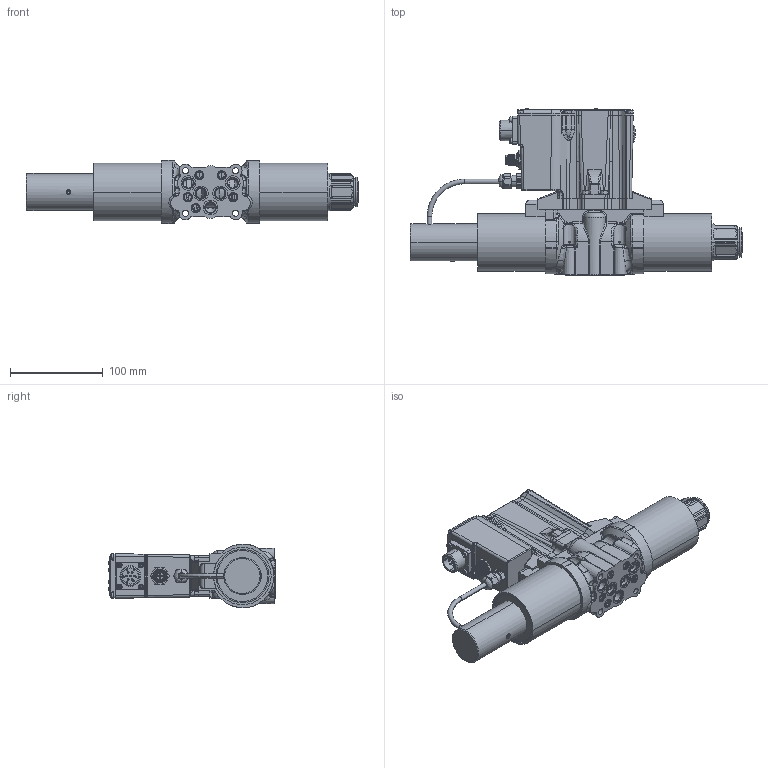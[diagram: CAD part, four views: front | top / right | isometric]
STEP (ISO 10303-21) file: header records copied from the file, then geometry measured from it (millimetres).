
FILE_DESCRIPTION((''),'2;1');
FILE_NAME('45860700','2025-05-12T10:22:33',('l.soukupova'),(''),'CREO PARAMETRIC BY PTC INC, 2023254','CREO PARAMETRIC BY PTC INC, 2023254','');
FILE_SCHEMA(('AUTOMOTIVE_DESIGN { 1 0 10303 214 1 1 1 1 }'));
Products named in the file (1): 45860700
Bounding box: 358 x 179.28 x 68.21 mm (x, y, z)
Volume: 1099024.6 mm3; surface area: 192666 mm2
Topology: 1 solids, 9 shells, 2976 faces, 7807 edges, 4948 vertices
Faces by surface type: plane 1126, cylinder 909, bspline 482, cone 210, torus 201, sphere 43, extrusion 5
Entity records: 204202 total; most frequent: CARTESIAN_POINT 89164, ORIENTED_EDGE 15462, DIRECTION 12845, PRESENTATION_STYLE_ASSIGNMENT 10713, STYLED_ITEM 7737, CURVE_STYLE 7736, EDGE_CURVE 7731, VERTEX_POINT 4948
